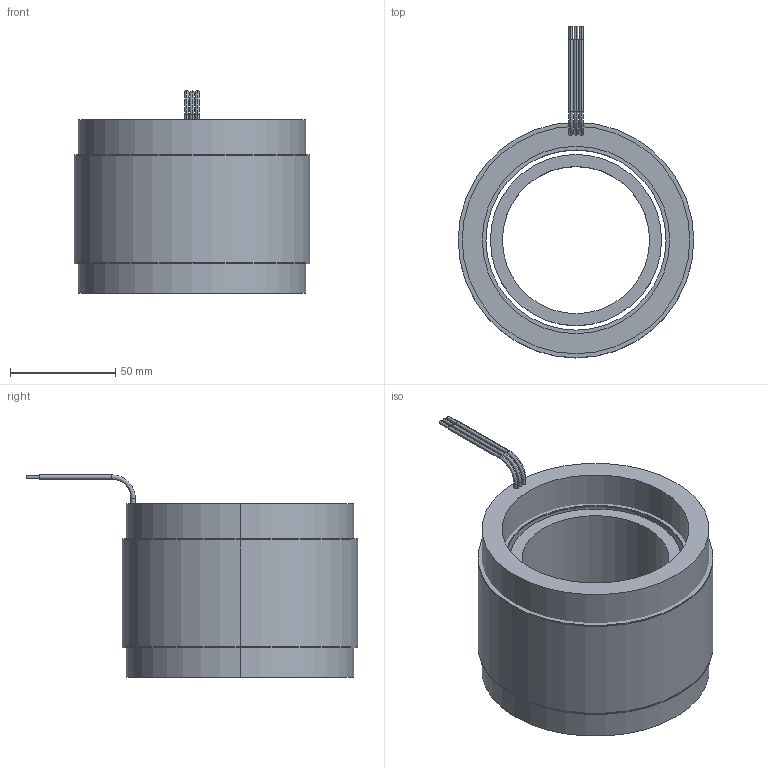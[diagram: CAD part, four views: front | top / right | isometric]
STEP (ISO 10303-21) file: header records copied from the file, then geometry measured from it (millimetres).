
FILE_DESCRIPTION (( 'STEP AP214' ), '1' );
FILE_NAME ('6100255-03.STEP', '2019-11-11T17:41:24', ( '' ), ( '' ), 'SwSTEP 2.0', 'SolidWorks 2016', '' );
FILE_SCHEMA (( 'AUTOMOTIVE_DESIGN' ));
Length unit declared in the file: millimetre
Products named in the file (11): 4500516-XX_4500516-03; 4450154-XX_4450154-02; 4600515-00; 4150144-XX_4150144-02; 6100255-03; 4250340-XX_4250340-02; COMP4500516-XX(COIL)_COMP4500516-03(COIL); 4400054-00
Assembly tree (10 placements, depth 4):
  6100255-03
    4500516-XX_4500516-03
      4450154-XX_4450154-02
        4450154-XX_4450154-02
        4400054-00
        4400054-00
        4600515-00
        4600515-00
      COMP4500516-XX(COIL)_COMP4500516-03(COIL)
    4250340-XX_4250340-02
      4150144-XX_4150144-02
Bounding box: 111.76 x 157.42 x 96.01 mm (x, y, z)
Volume: 522689.4 mm3; surface area: 157525.2 mm2
Topology: 7 solids, 7 shells, 72 faces, 144 edges, 92 vertices
Faces by surface type: cylinder 46, plane 20, torus 6
Entity records: 2346 total; most frequent: DIRECTION 418, CARTESIAN_POINT 324, ORIENTED_EDGE 288, AXIS2_PLACEMENT_3D 186, EDGE_CURVE 144, CIRCLE 98, EDGE_LOOP 92, VERTEX_POINT 92
